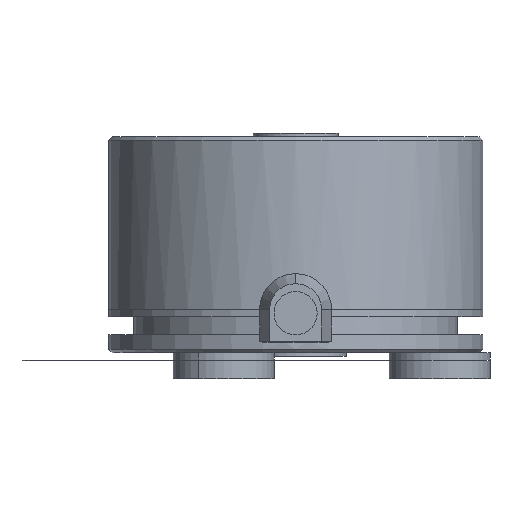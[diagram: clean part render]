
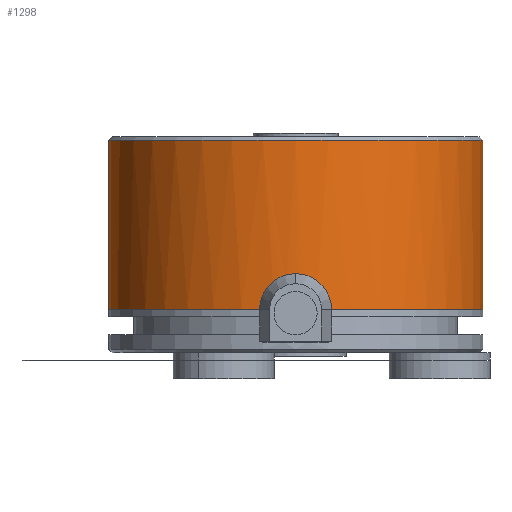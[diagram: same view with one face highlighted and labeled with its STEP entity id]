
A CAD part, front view. The second image highlights one B-rep face of the part: STEP entity #1298.
In plain terms, the highlighted cylindrical face has radius 26 mm (diameter 52 mm), a partial arc.
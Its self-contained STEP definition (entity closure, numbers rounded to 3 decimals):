
#1298=ADVANCED_FACE('',(#1868),#1869,.T.);
#1868=FACE_OUTER_BOUND('',#2568,.T.);
#1869=CYLINDRICAL_SURFACE('',#2569,26.0);
#2568=EDGE_LOOP('',(#4390,#4391,#4392,#4393,#4394,#4395,#4396));
#2569=AXIS2_PLACEMENT_3D('',#4397,#4398,#4399);
#4390=ORIENTED_EDGE('',*,*,#5680,.F.);
#4391=ORIENTED_EDGE('',*,*,#5681,.T.);
#4392=ORIENTED_EDGE('',*,*,#5669,.F.);
#4393=ORIENTED_EDGE('',*,*,#5682,.F.);
#4394=ORIENTED_EDGE('',*,*,#5683,.T.);
#4395=ORIENTED_EDGE('',*,*,#5684,.F.);
#4396=ORIENTED_EDGE('',*,*,#5685,.T.);
#4397=CARTESIAN_POINT('',(0.,0.0,30.0));
#4398=DIRECTION('',(0.0,-0.0,1.0));
#4399=DIRECTION('',(-1.0,0.0,0.0));
#5669=EDGE_CURVE('',#6690,#6693,#6694,.T.);
#5680=EDGE_CURVE('',#6714,#6715,#6716,.T.);
#5681=EDGE_CURVE('',#6714,#6693,#6717,.T.);
#5682=EDGE_CURVE('',#6718,#6690,#6719,.T.);
#5683=EDGE_CURVE('',#6718,#6720,#6721,.T.);
#5684=EDGE_CURVE('',#6722,#6720,#6723,.T.);
#5685=EDGE_CURVE('',#6722,#6715,#6724,.F.);
#6690=VERTEX_POINT('',#8309);
#6693=VERTEX_POINT('',#8313);
#6694=B_SPLINE_CURVE_WITH_KNOTS('',3,(#8314,#8315,#8316,#8317,#8318,#8319,#8320,#8321,#8322,#8323,#8324,#8325,#8326,#8327,#8328,#8329,#8330,#8331,#8332,#8333,#8334,#8335,#8336,#8337,#8338,#8339,#8340,#8341,#8342,#8343,#8344,#8345,#8346,#8347),.UNSPECIFIED.,.F.,.F.,(4,2,2,2,2,2,2,2,2,2,2,2,2,2,2,2,4),(0.0,0.001,0.001,0.002,0.003,0.003,0.004,0.005,0.005,0.006,0.007,0.008,0.008,0.009,0.01,0.01,0.011),.UNSPECIFIED.);
#6714=VERTEX_POINT('',#8405);
#6715=VERTEX_POINT('',#8406);
#6716=LINE('',#8407,#8408);
#6717=CIRCLE('',#8409,26.0);
#6718=VERTEX_POINT('',#8410);
#6719=B_SPLINE_CURVE_WITH_KNOTS('',3,(#8411,#8412,#8413,#8414,#8415,#8416,#8417,#8418,#8419,#8420,#8421,#8422,#8423,#8424,#8425,#8426,#8427,#8428,#8429,#8430,#8431,#8432,#8433,#8434,#8435,#8436,#8437,#8438,#8439,#8440,#8441,#8442,#8443,#8444),.UNSPECIFIED.,.F.,.F.,(4,2,2,2,2,2,2,2,2,2,2,2,2,2,2,2,4),(0.0,0.001,0.001,0.002,0.003,0.003,0.004,0.005,0.005,0.006,0.007,0.008,0.008,0.009,0.01,0.01,0.011),.UNSPECIFIED.);
#6720=VERTEX_POINT('',#8445);
#6721=CIRCLE('',#8446,26.0);
#6722=VERTEX_POINT('',#8447);
#6723=LINE('',#8448,#8449);
#6724=CIRCLE('',#8450,26.0);
#8309=CARTESIAN_POINT('',(0.,-26.,9.5));
#8313=CARTESIAN_POINT('',(-3.5,-25.763,6.0));
#8314=CARTESIAN_POINT('',(3.5,-25.763,6.0));
#8315=CARTESIAN_POINT('',(3.5,-25.763,6.231));
#8316=CARTESIAN_POINT('',(3.477,-25.766,6.459));
#8317=CARTESIAN_POINT('',(3.388,-25.778,6.907));
#8318=CARTESIAN_POINT('',(3.321,-25.787,7.129));
#8319=CARTESIAN_POINT('',(3.145,-25.809,7.553));
#8320=CARTESIAN_POINT('',(3.038,-25.822,7.754));
#8321=CARTESIAN_POINT('',(2.784,-25.851,8.134));
#8322=CARTESIAN_POINT('',(2.636,-25.867,8.314));
#8323=CARTESIAN_POINT('',(2.314,-25.897,8.636));
#8324=CARTESIAN_POINT('',(2.138,-25.913,8.781));
#8325=CARTESIAN_POINT('',(1.755,-25.941,9.037));
#8326=CARTESIAN_POINT('',(1.552,-25.954,9.145));
#8327=CARTESIAN_POINT('',(1.131,-25.976,9.32));
#8328=CARTESIAN_POINT('',(0.91,-25.985,9.387));
#8329=CARTESIAN_POINT('',(0.458,-25.997,9.478));
#8330=CARTESIAN_POINT('',(0.231,-26.,9.5));
#8331=CARTESIAN_POINT('',(-0.226,-26.,9.5));
#8332=CARTESIAN_POINT('',(-0.458,-25.997,9.477));
#8333=CARTESIAN_POINT('',(-0.907,-25.985,9.388));
#8334=CARTESIAN_POINT('',(-1.125,-25.976,9.322));
#8335=CARTESIAN_POINT('',(-1.549,-25.955,9.147));
#8336=CARTESIAN_POINT('',(-1.754,-25.941,9.037));
#8337=CARTESIAN_POINT('',(-2.133,-25.913,8.784));
#8338=CARTESIAN_POINT('',(-2.31,-25.898,8.64));
#8339=CARTESIAN_POINT('',(-2.637,-25.866,8.313));
#8340=CARTESIAN_POINT('',(-2.781,-25.851,8.137));
#8341=CARTESIAN_POINT('',(-3.035,-25.823,7.758));
#8342=CARTESIAN_POINT('',(-3.145,-25.809,7.554));
#8343=CARTESIAN_POINT('',(-3.32,-25.787,7.13));
#8344=CARTESIAN_POINT('',(-3.387,-25.779,6.912));
#8345=CARTESIAN_POINT('',(-3.477,-25.767,6.463));
#8346=CARTESIAN_POINT('',(-3.5,-25.763,6.231));
#8347=CARTESIAN_POINT('',(-3.5,-25.763,6.0));
#8405=CARTESIAN_POINT('',(-26.0,0.,6.0));
#8406=CARTESIAN_POINT('',(-26.0,0.,29.5));
#8407=CARTESIAN_POINT('',(-26.0,0.,17.75));
#8408=VECTOR('',#9910,1.0);
#8409=AXIS2_PLACEMENT_3D('',#9911,#9912,#9913);
#8410=CARTESIAN_POINT('',(3.5,-25.763,6.0));
#8411=CARTESIAN_POINT('',(3.5,-25.763,6.0));
#8412=CARTESIAN_POINT('',(3.5,-25.763,6.231));
#8413=CARTESIAN_POINT('',(3.477,-25.766,6.459));
#8414=CARTESIAN_POINT('',(3.388,-25.778,6.907));
#8415=CARTESIAN_POINT('',(3.321,-25.787,7.129));
#8416=CARTESIAN_POINT('',(3.145,-25.809,7.553));
#8417=CARTESIAN_POINT('',(3.038,-25.822,7.754));
#8418=CARTESIAN_POINT('',(2.784,-25.851,8.134));
#8419=CARTESIAN_POINT('',(2.636,-25.867,8.314));
#8420=CARTESIAN_POINT('',(2.314,-25.897,8.636));
#8421=CARTESIAN_POINT('',(2.138,-25.913,8.781));
#8422=CARTESIAN_POINT('',(1.755,-25.941,9.037));
#8423=CARTESIAN_POINT('',(1.552,-25.954,9.145));
#8424=CARTESIAN_POINT('',(1.131,-25.976,9.32));
#8425=CARTESIAN_POINT('',(0.91,-25.985,9.387));
#8426=CARTESIAN_POINT('',(0.458,-25.997,9.478));
#8427=CARTESIAN_POINT('',(0.231,-26.,9.5));
#8428=CARTESIAN_POINT('',(-0.226,-26.,9.5));
#8429=CARTESIAN_POINT('',(-0.458,-25.997,9.477));
#8430=CARTESIAN_POINT('',(-0.907,-25.985,9.388));
#8431=CARTESIAN_POINT('',(-1.125,-25.976,9.322));
#8432=CARTESIAN_POINT('',(-1.549,-25.955,9.147));
#8433=CARTESIAN_POINT('',(-1.754,-25.941,9.037));
#8434=CARTESIAN_POINT('',(-2.133,-25.913,8.784));
#8435=CARTESIAN_POINT('',(-2.31,-25.898,8.64));
#8436=CARTESIAN_POINT('',(-2.637,-25.866,8.313));
#8437=CARTESIAN_POINT('',(-2.781,-25.851,8.137));
#8438=CARTESIAN_POINT('',(-3.035,-25.823,7.758));
#8439=CARTESIAN_POINT('',(-3.145,-25.809,7.554));
#8440=CARTESIAN_POINT('',(-3.32,-25.787,7.13));
#8441=CARTESIAN_POINT('',(-3.387,-25.779,6.912));
#8442=CARTESIAN_POINT('',(-3.477,-25.767,6.463));
#8443=CARTESIAN_POINT('',(-3.5,-25.763,6.231));
#8444=CARTESIAN_POINT('',(-3.5,-25.763,6.0));
#8445=CARTESIAN_POINT('',(26.0,0.,6.0));
#8446=AXIS2_PLACEMENT_3D('',#9914,#9915,#9916);
#8447=CARTESIAN_POINT('',(26.0,0.0,29.5));
#8448=CARTESIAN_POINT('',(26.0,0.,17.75));
#8449=VECTOR('',#9917,1.0);
#8450=AXIS2_PLACEMENT_3D('',#9918,#9919,#9920);
#9910=DIRECTION('',(0.0,-0.0,1.0));
#9911=CARTESIAN_POINT('',(0.,0.0,6.0));
#9912=DIRECTION('',(0.0,0.0,1.0));
#9913=DIRECTION('',(1.0,0.0,0.0));
#9914=CARTESIAN_POINT('',(0.,0.0,6.0));
#9915=DIRECTION('',(0.0,0.0,1.0));
#9916=DIRECTION('',(1.0,0.0,0.0));
#9917=DIRECTION('',(0.0,-0.0,-1.0));
#9918=CARTESIAN_POINT('',(0.,0.0,29.5));
#9919=DIRECTION('',(0.0,0.0,1.0));
#9920=DIRECTION('',(1.0,0.0,0.0));
